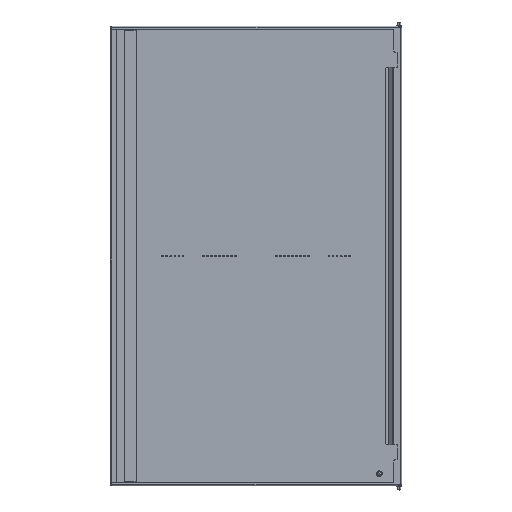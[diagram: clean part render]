
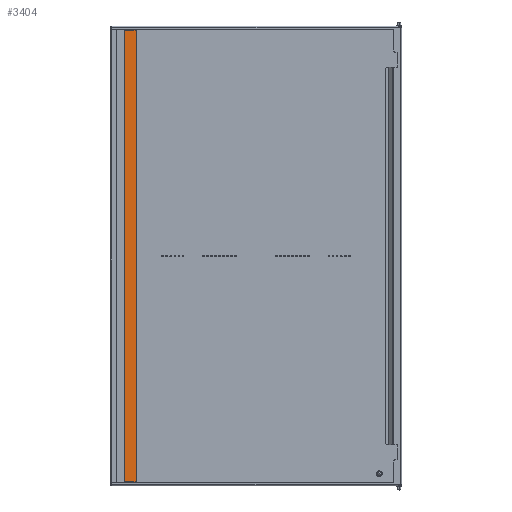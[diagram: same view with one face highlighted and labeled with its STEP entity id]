
A CAD part, top view. The second image highlights one B-rep face of the part: STEP entity #3404.
In plain terms, the highlighted planar face has unit normal (0, 0, 1).
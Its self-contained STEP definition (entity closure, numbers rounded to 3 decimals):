
#86 = VECTOR ( 'NONE', #1752, 1000. ) ;
#109 = VECTOR ( 'NONE', #1767, 1000. ) ;
#111 = VECTOR ( 'NONE', #1749, 1000. ) ;
#113 = VECTOR ( 'NONE', #1758, 1000. ) ;
#272 = EDGE_LOOP ( 'NONE', ( #8008, #8007, #8006, #8010 ) ) ;
#593 = EDGE_CURVE ( 'NONE', #6838, #6837, #1747, .T. ) ;
#594 = EDGE_CURVE ( 'NONE', #6839, #6838, #1750, .T. ) ;
#596 = EDGE_CURVE ( 'NONE', #6873, #6839, #1756, .T. ) ;
#599 = EDGE_CURVE ( 'NONE', #6837, #6873, #1765, .T. ) ;
#1747 = LINE ( 'NONE', #1748, #111 ) ;
#1748 = CARTESIAN_POINT ( 'NONE',  ( -324.6, -556.75, 29.5 ) ) ;
#1749 = DIRECTION ( 'NONE',  ( 1., 0., 0. ) ) ;
#1750 = LINE ( 'NONE', #1751, #86 ) ;
#1751 = CARTESIAN_POINT ( 'NONE',  ( -324.6, -556.75, 29.5 ) ) ;
#1752 = DIRECTION ( 'NONE',  ( 0., -1., 0. ) ) ;
#1756 = LINE ( 'NONE', #1757, #113 ) ;
#1757 = CARTESIAN_POINT ( 'NONE',  ( -324.6, 556.75, 29.5 ) ) ;
#1758 = DIRECTION ( 'NONE',  ( -1., 0., 0. ) ) ;
#1765 = LINE ( 'NONE', #1766, #109 ) ;
#1766 = CARTESIAN_POINT ( 'NONE',  ( -295.5, -556.75, 29.5 ) ) ;
#1767 = DIRECTION ( 'NONE',  ( 0., 1., 0. ) ) ;
#3404 = ADVANCED_FACE ( 'NONE', ( #7711 ), #5876, .F. ) ;
#5876 = PLANE ( 'NONE',  #7714 ) ;
#5877 = CARTESIAN_POINT ( 'NONE',  ( 0., 0., 29.5 ) ) ;
#5878 = DIRECTION ( 'NONE',  ( 0., 0., -1. ) ) ;
#5879 = DIRECTION ( 'NONE',  ( -1., 0., 0. ) ) ;
#6301 = CARTESIAN_POINT ( 'NONE',  ( -295.5, -556.75, 29.5 ) ) ;
#6302 = CARTESIAN_POINT ( 'NONE',  ( -324.6, -556.75, 29.5 ) ) ;
#6303 = CARTESIAN_POINT ( 'NONE',  ( -324.6, 556.75, 29.5 ) ) ;
#6337 = CARTESIAN_POINT ( 'NONE',  ( -295.5, 556.75, 29.5 ) ) ;
#6837 = VERTEX_POINT ( 'NONE', #6301 ) ;
#6838 = VERTEX_POINT ( 'NONE', #6302 ) ;
#6839 = VERTEX_POINT ( 'NONE', #6303 ) ;
#6873 = VERTEX_POINT ( 'NONE', #6337 ) ;
#7711 = FACE_OUTER_BOUND ( 'NONE', #272, .T. ) ;
#7714 = AXIS2_PLACEMENT_3D ( 'NONE', #5877, #5878, #5879 ) ;
#8006 = ORIENTED_EDGE ( 'NONE', *, *, #594, .T. ) ;
#8007 = ORIENTED_EDGE ( 'NONE', *, *, #596, .T. ) ;
#8008 = ORIENTED_EDGE ( 'NONE', *, *, #599, .T. ) ;
#8010 = ORIENTED_EDGE ( 'NONE', *, *, #593, .T. ) ;
